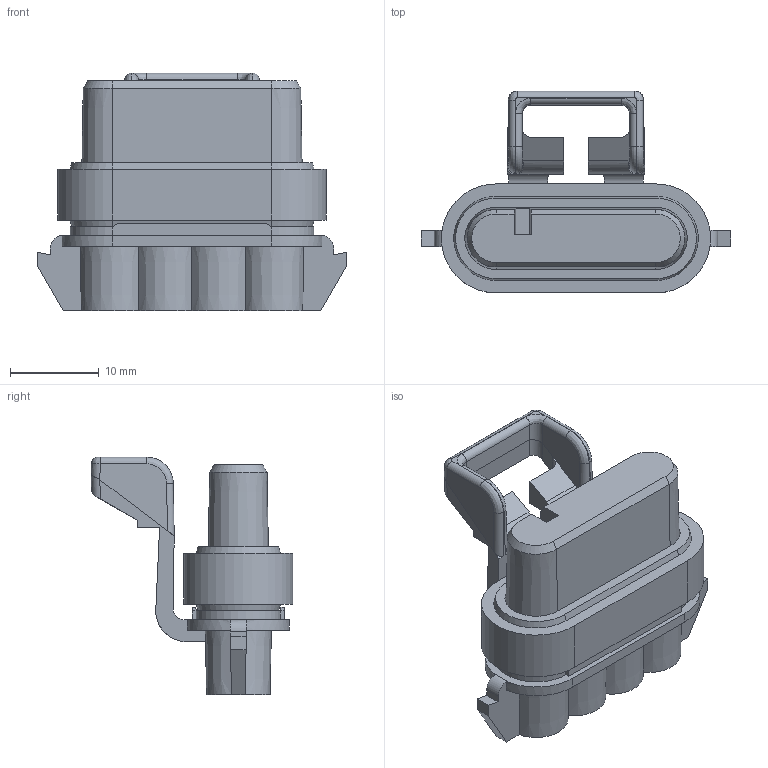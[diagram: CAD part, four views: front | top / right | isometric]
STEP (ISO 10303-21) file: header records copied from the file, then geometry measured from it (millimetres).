
FILE_DESCRIPTION(/* description */ (''),/* implementation_level */ '2;1');
FILE_NAME(/* name */ '12162144-ENV11_05-CONN.stp',/* time_stamp */ '2021-09-18T15:13:15+06:00',/* author */ (''),/* organization */ (''),/* preprocessor_version */ 'ST-DEVELOPER v16',/* originating_system */ 'SIEMENS PLM Software NX 11.0',/* authorisation */ '');
FILE_SCHEMA (('AP203_CONFIGURATION_CONTROLLED_3D_DESIGN_OF_MECHANICAL_PARTS_AND_ASSEMBLIES_MIM_LF { 1 0 10303 403 2 1 2}'));
Length unit declared in the file: millimetre
Products named in the file (1): hjcv348867DBm6t8
Bounding box: 35 x 22.79 x 26.85 mm (x, y, z)
Volume: 6147.4 mm3; surface area: 4383.3 mm2
Topology: 1 solids, 1 shells, 159 faces, 420 edges, 266 vertices
Faces by surface type: plane 94, cylinder 41, cone 12, bspline 8, revolution 4
Entity records: 5189 total; most frequent: CARTESIAN_POINT 1138, ORIENTED_EDGE 840, DIRECTION 811, EDGE_CURVE 420, AXIS2_PLACEMENT_3D 271, VERTEX_POINT 268, LINE 265, VECTOR 265
